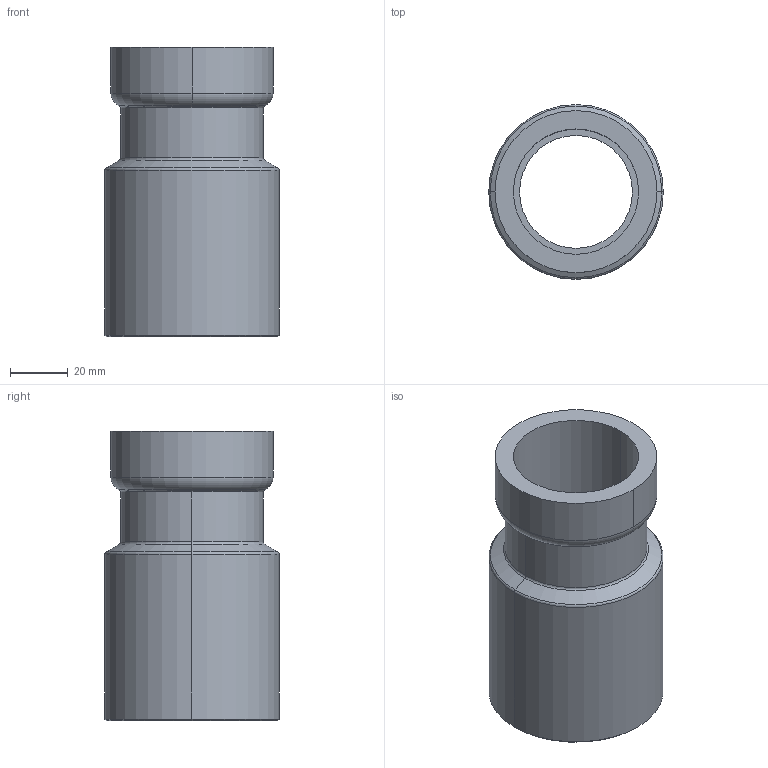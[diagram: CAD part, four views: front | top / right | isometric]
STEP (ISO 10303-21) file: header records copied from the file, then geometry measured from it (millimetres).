
FILE_DESCRIPTION(('Creo Elements/Direct Modeling STEP Export'),'2;1');
FILE_NAME('C9407_1-1-4_2.stp','2020-06-23T14:28:00',(''),(''),'PTC Creo Elements/Direct Modeling STEP processor for AP214 (Solid Model)','PTC Creo Elements/Direct Modeling 19.0C 15-Aug-2015 (C) Parametric Technology GmbH','');
FILE_SCHEMA(('AUTOMOTIVE_DESIGN { 1 0 10303 214 1 1 1 1 }'));
Length unit declared in the file: millimetre
Products named in the file (2): 9407_1-1-4_2
Assembly tree (1 placements, depth 2):
  9407_1-1-4_2
    9407_1-1-4_2
Bounding box: 60.3 x 60.3 x 99.9 mm (x, y, z)
Volume: 87699 mm3; surface area: 35720.2 mm2
Topology: 1 solids, 1 shells, 31 faces, 64 edges, 36 vertices
Faces by surface type: cylinder 12, cone 8, torus 8, plane 3
Entity records: 776 total; most frequent: DIRECTION 136, ORIENTED_EDGE 128, CARTESIAN_POINT 114, EDGE_CURVE 64, AXIS2_PLACEMENT_3D 58, VERTEX_POINT 36, EDGE_LOOP 34, FACE_OUTER_BOUND 31
